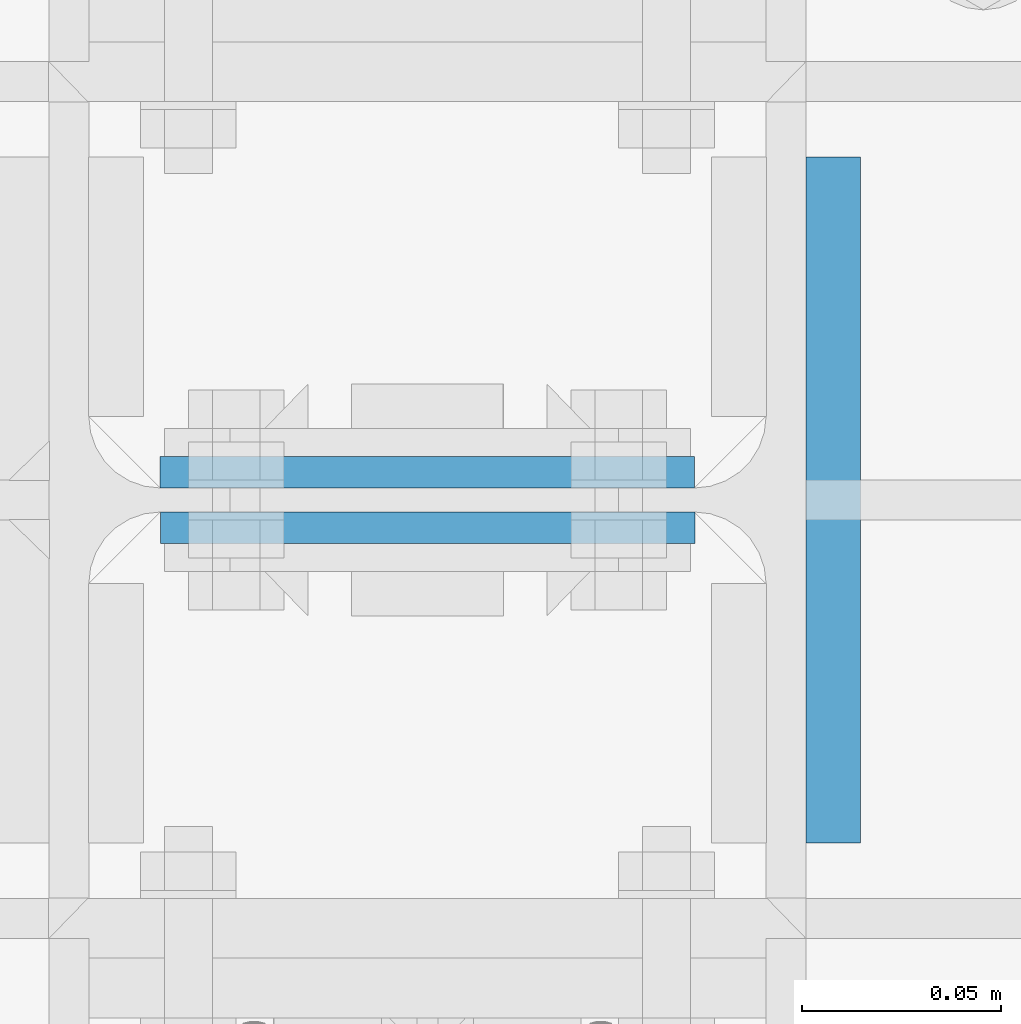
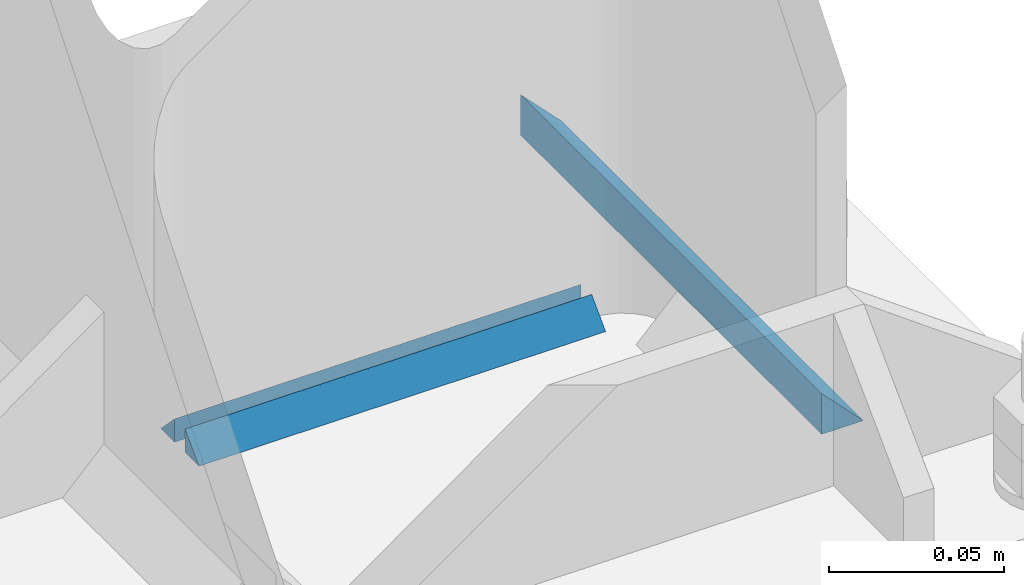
# One storey, part 32 of 251: 6 fasteners.
"""IFC4 building model written with IfcOpenShell, lengths in metres."""

from ifc_helpers import new_model, si_unit, frame, origin_with_axes, place, context, project, spatial, polyline, outline, extrude, type_object, element, save


model = new_model("IFC4")

# Units and contexts
model_context = context("Model", 3, precision=1e-05, world=origin_with_axes())
ifc_project = project(units=[si_unit("LENGTHUNIT", "METRE"), si_unit("AREAUNIT", "SQUARE_METRE"), si_unit("VOLUMEUNIT", "CUBIC_METRE"), si_unit("MASSUNIT", "GRAM", prefix="KILO"), si_unit("TIMEUNIT", "SECOND"), si_unit("PLANEANGLEUNIT", "RADIAN"), si_unit("SOLIDANGLEUNIT", "STERADIAN"), si_unit("THERMODYNAMICTEMPERATUREUNIT", "DEGREE_CELSIUS")], contexts=[model_context])

# Site, building, storey
placement_1 = place(None, origin_with_axes())
site = spatial("IfcSite", under=ifc_project, at=placement_1, Name="Italia", CompositionType="ELEMENT")
building = spatial("IfcBuilding", under=site, at=placement_1, Name="Deposito", CompositionType="ELEMENT")
storey = spatial("IfcBuildingStorey", under=building, at=placement_1, Name="Storey 0", CompositionType="ELEMENT", Elevation=0.0)

# Fasteners
fastener_type_1 = type_object("IfcFastenerType", Name="Collegamenti 0014_-001 0016_-054 0018_-056 0032_-002 0033_-058 0047_-003 0048_-060 0062_-004 0063_-005 0079_-008", PredefinedType="WELD")
placement_2 = place(placement_1, origin_with_axes())
fastener_1_placement = place(placement_2, origin_with_axes())
element("IfcFastener", 1, at=fastener_1_placement, inside=storey, type_object=fastener_type_1, Name="Collegamenti 0014_-001 0016_-054 0018_-056 0032_-002 0033_-058 0047_-003 0048_-060 0062_-004 0063_-005 0079_-008", context=model_context, shape_type="SweptSolid", body=[
    extrude(outline(polyline([(0.0, 0.0), (0.0137482, 0.0141734), (0.0137482, 0.0), (0.0, 0.0)])), frame((20.1087, 4.91395, 0.07495), z_axis=(0.0, 1.0, 0.0), x_axis=(-1.0, 0.0, 0.0)), (0.0, 0.0, 1.0), 0.1721),
])
fastener_type_2 = type_object("IfcFastenerType", Name="Collegamenti 0014_-001 0016_-054 0018_-056 0032_-002 0033_-058 0047_-003 0048_-060 0062_-004 0063_-005 0079_-008", PredefinedType="WELD")
fastener_2_placement = place(placement_2, origin_with_axes())
element("IfcFastener", 2, at=fastener_2_placement, inside=storey, type_object=fastener_type_2, Name="Collegamenti 0014_-001 0016_-054 0018_-056 0032_-002 0033_-058 0047_-003 0048_-060 0062_-004 0063_-005 0079_-008", context=model_context, shape_type="SweptSolid", body=[
    extrude(outline(polyline([(0.0, 0.0), (0.00792789, 0.00817336), (0.00792789, 0.0), (0.0, 0.0)])), frame((20.067, 5.01088, 0.07495), z_axis=(-1.0, 0.0, 0.0), x_axis=(0.0, -1.0, 0.0)), (0.0, 0.0, 1.0), 0.134098),
])
fastener_type_3 = type_object("IfcFastenerType", Name="Collegamenti 0014_-001 0016_-054 0018_-056 0032_-002 0033_-058 0047_-003 0048_-060 0062_-004 0063_-005 0079_-008", PredefinedType="WELD")
fastener_3_placement = place(placement_2, origin_with_axes())
element("IfcFastener", 3, at=fastener_3_placement, inside=storey, type_object=fastener_type_3, Name="Collegamenti 0014_-001 0016_-054 0018_-056 0032_-002 0033_-058 0047_-003 0048_-060 0062_-004 0063_-005 0079_-008", context=model_context, shape_type="SweptSolid", body=[
    extrude(outline(polyline([(0.0, 0.0), (0.00792789, 0.00817336), (0.00792789, 0.0), (0.0, 0.0)])), frame((19.933, 4.98912, 0.07495), z_axis=(1.0, 0.0, 0.0), x_axis=(0.0, 1.0, 0.0)), (0.0, 0.0, 1.0), 0.134098),
])
fastener_type_4 = type_object("IfcFastenerType", Name="Collegamenti 0014_-001 0016_-054 0018_-056 0032_-002 0033_-058 0047_-003 0048_-060 0062_-004 0063_-005 0079_-008", PredefinedType="WELD")
fastener_4_placement = place(placement_2, origin_with_axes())
element("IfcFastener", 4, at=fastener_4_placement, inside=storey, type_object=fastener_type_4, Name="Collegamenti 0014_-001 0016_-054 0018_-056 0032_-002 0033_-058 0047_-003 0048_-060 0062_-004 0063_-005 0079_-008", context=model_context, shape_type="SweptSolid", body=[
    extrude(outline(polyline([(0.0, 0.0), (0.0137482, 0.0141734), (0.0137482, 0.0), (0.0, 0.0)])), frame((20.1087, 4.91395, 0.07495), z_axis=(0.0, 1.0, 0.0), x_axis=(-1.0, 0.0, 0.0)), (0.0, 0.0, 1.0), 0.1721),
])
fastener_type_5 = type_object("IfcFastenerType", Name="Collegamenti 0014_-001 0016_-054 0018_-056 0032_-002 0033_-058 0047_-003 0048_-060 0062_-004 0063_-005 0079_-008", PredefinedType="WELD")
fastener_5_placement = place(placement_2, origin_with_axes())
element("IfcFastener", 5, at=fastener_5_placement, inside=storey, type_object=fastener_type_5, Name="Collegamenti 0014_-001 0016_-054 0018_-056 0032_-002 0033_-058 0047_-003 0048_-060 0062_-004 0063_-005 0079_-008", context=model_context, shape_type="SweptSolid", body=[
    extrude(outline(polyline([(0.0, 0.0), (0.00792789, 0.00817336), (0.00792789, 0.0), (0.0, 0.0)])), frame((20.067, 5.01088, 0.07495), z_axis=(-1.0, 0.0, 0.0), x_axis=(0.0, -1.0, 0.0)), (0.0, 0.0, 1.0), 0.134098),
])
fastener_type_6 = type_object("IfcFastenerType", Name="Collegamenti 0014_-001 0016_-054 0018_-056 0032_-002 0033_-058 0047_-003 0048_-060 0062_-004 0063_-005 0079_-008", PredefinedType="WELD")
fastener_6_placement = place(placement_2, origin_with_axes())
element("IfcFastener", 6, at=fastener_6_placement, inside=storey, type_object=fastener_type_6, Name="Collegamenti 0014_-001 0016_-054 0018_-056 0032_-002 0033_-058 0047_-003 0048_-060 0062_-004 0063_-005 0079_-008", context=model_context, shape_type="SweptSolid", body=[
    extrude(outline(polyline([(0.0, 0.0), (0.00792789, 0.00817336), (0.00792789, 0.0), (0.0, 0.0)])), frame((19.933, 4.98912, 0.07495), z_axis=(1.0, 0.0, 0.0), x_axis=(0.0, 1.0, 0.0)), (0.0, 0.0, 1.0), 0.134098),
])

save(model, "model.ifc")
